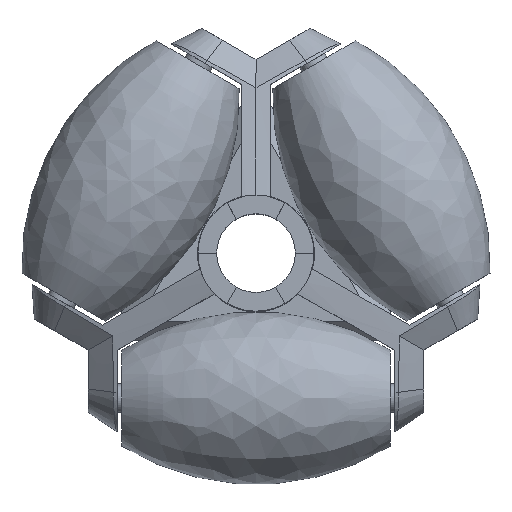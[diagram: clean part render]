
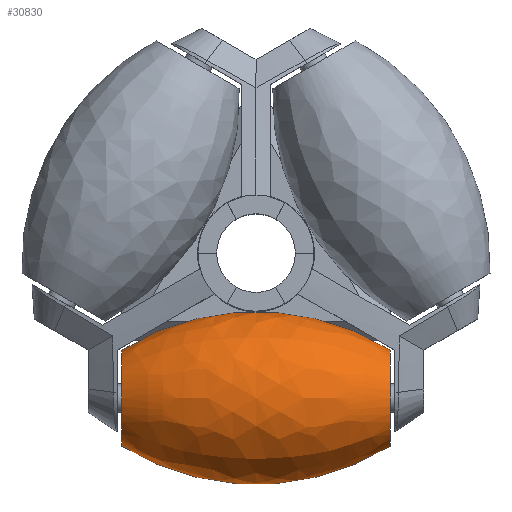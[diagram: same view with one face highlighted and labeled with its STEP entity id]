
A CAD part, top view. The second image highlights one B-rep face of the part: STEP entity #30830.
In plain terms, the highlighted free-form (B-spline) face has degree [3, 3] with [7, 4] control points.
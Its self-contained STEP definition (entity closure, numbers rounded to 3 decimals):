
#30654=CARTESIAN_POINT('',(0.,14.,0.));
#30655=DIRECTION('',(0.,-1.,0.));
#30656=DIRECTION('',(1.,0.,0.));
#30657=AXIS2_PLACEMENT_3D('',#30654,#30655,#30656);
#30664=CARTESIAN_POINT('',(0.,-14.,0.));
#30665=DIRECTION('',(0.,-1.,0.));
#30666=DIRECTION('',(1.,0.,0.));
#30667=AXIS2_PLACEMENT_3D('',#30664,#30665,#30666);
#30669=CARTESIAN_POINT('',(-17.5,0.,0.));
#30670=DIRECTION('',(0.,0.,1.));
#30671=DIRECTION('',(0.849,-0.528,0.));
#30672=AXIS2_PLACEMENT_3D('',#30669,#30670,#30671);
#30674=CARTESIAN_POINT('',(17.5,0.,0.));
#30675=DIRECTION('',(0.,0.,-1.));
#30676=DIRECTION('',(-0.849,-0.528,0.));
#30677=AXIS2_PLACEMENT_3D('',#30674,#30675,#30676);
#30738=CARTESIAN_POINT('',(5.,-14.,0.));
#30739=CARTESIAN_POINT('',(5.,14.,0.));
#30740=VERTEX_POINT('',#30738);
#30741=VERTEX_POINT('',#30739);
#30742=CARTESIAN_POINT('',(-5.,-14.,0.));
#30743=CARTESIAN_POINT('',(-5.,14.,0.));
#30744=VERTEX_POINT('',#30742);
#30745=VERTEX_POINT('',#30743);
#30792=CARTESIAN_POINT('',(4.674,14.497,
-0.294));
#30793=CARTESIAN_POINT('',(10.593,5.421,
-0.666));
#30794=CARTESIAN_POINT('',(10.593,-5.421,
-0.666));
#30795=CARTESIAN_POINT('',(4.674,-14.497,
-0.294));
#30796=CARTESIAN_POINT('',(4.854,14.497,2.582));
#30797=CARTESIAN_POINT('',(11.004,5.421,5.853));
#30798=CARTESIAN_POINT('',(11.004,-5.421,
5.853));
#30799=CARTESIAN_POINT('',(4.854,-14.497,
2.582));
#30800=CARTESIAN_POINT('',(2.882,14.497,4.683));
#30801=CARTESIAN_POINT('',(6.532,5.421,10.614));
#30802=CARTESIAN_POINT('',(6.532,-5.421,
10.614));
#30803=CARTESIAN_POINT('',(2.882,-14.497,
4.683));
#30804=CARTESIAN_POINT('',(0.,14.497,4.683));
#30805=CARTESIAN_POINT('',(0.,5.421,10.614));
#30806=CARTESIAN_POINT('',(0.,-5.421,10.614));
#30807=CARTESIAN_POINT('',(0.,-14.497,4.683));
#30808=CARTESIAN_POINT('',(-2.882,14.497,
4.683));
#30809=CARTESIAN_POINT('',(-6.532,5.421,
10.614));
#30810=CARTESIAN_POINT('',(-6.532,-5.421,
10.614));
#30811=CARTESIAN_POINT('',(-2.882,-14.497,
4.683));
#30812=CARTESIAN_POINT('',(-4.854,14.497,
2.582));
#30813=CARTESIAN_POINT('',(-11.004,5.421,
5.853));
#30814=CARTESIAN_POINT('',(-11.004,-5.421,
5.853));
#30815=CARTESIAN_POINT('',(-4.854,-14.497,
2.582));
#30816=CARTESIAN_POINT('',(-4.674,14.497,
-0.294));
#30817=CARTESIAN_POINT('',(-10.593,5.421,
-0.666));
#30818=CARTESIAN_POINT('',(-10.593,-5.421,
-0.666));
#30819=CARTESIAN_POINT('',(-4.674,-14.497,
-0.294));
#30820=(BOUNDED_SURFACE()B_SPLINE_SURFACE(3,3,((#30792,#30793,#30794,#30795),(
#30796,#30797,#30798,#30799),(#30800,#30801,#30802,#30803),(#30804,#30805,
#30806,#30807),(#30808,#30809,#30810,#30811),(#30812,#30813,#30814,#30815),(
#30816,#30817,#30818,#30819)),.UNSPECIFIED.,.F.,.F.,.F.)B_SPLINE_SURFACE_WITH_KNOTS((4,3,4),(4,4),(0.,1.,2.),(0.,1.),.UNSPECIFIED.)GEOMETRIC_REPRESENTATION_ITEM()RATIONAL_B_SPLINE_SURFACE(((1.293,1.152,
1.152,1.293),(1.021,0.91,
0.91,1.021),(1.021,0.91,
0.91,1.021),(1.293,1.152,
1.152,1.293),(1.021,0.91,
0.91,1.021),(1.021,0.91,
0.91,1.021),(1.293,1.152,
1.152,1.293)))REPRESENTATION_ITEM('')SURFACE());
#30822=ORIENTED_EDGE('',*,*,#30821,.F.);
#30824=ORIENTED_EDGE('',*,*,#30823,.T.);
#30826=ORIENTED_EDGE('',*,*,#30825,.T.);
#30827=ORIENTED_EDGE('',*,*,#30781,.F.);
#30828=EDGE_LOOP('',(#30822,#30824,#30826,#30827));
#30829=FACE_OUTER_BOUND('',#30828,.F.);
#30658=CIRCLE('',#30657,5.);
#30668=CIRCLE('',#30667,5.);
#30673=CIRCLE('',#30672,26.5);
#30678=CIRCLE('',#30677,26.5);
#30781=EDGE_CURVE('',#30741,#30745,#30658,.T.);
#30821=EDGE_CURVE('',#30740,#30741,#30673,.T.);
#30823=EDGE_CURVE('',#30740,#30744,#30668,.T.);
#30825=EDGE_CURVE('',#30744,#30745,#30678,.T.);
#30830=ADVANCED_FACE('',(#30829),#30820,.T.);
